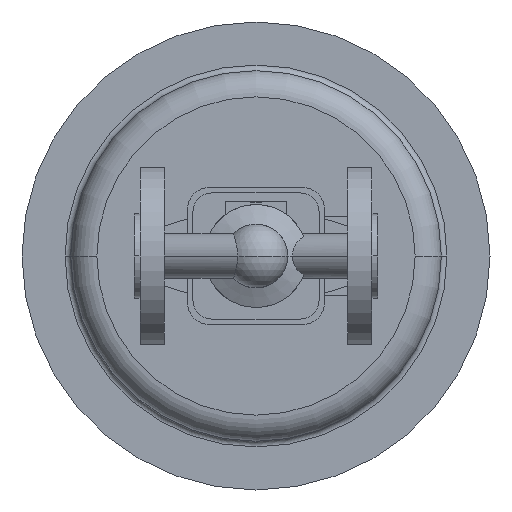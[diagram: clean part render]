
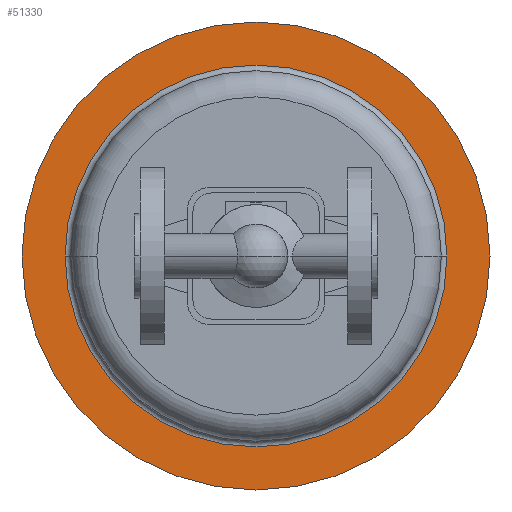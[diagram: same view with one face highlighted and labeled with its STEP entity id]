
A CAD part, front view. The second image highlights one B-rep face of the part: STEP entity #51330.
In plain terms, the highlighted planar face has unit normal (0, -1, 0).
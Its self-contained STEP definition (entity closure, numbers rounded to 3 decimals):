
#50830=CARTESIAN_POINT('',(-37.,560.,0.));
#50840=VERTEX_POINT('',#50830);
#50870=CARTESIAN_POINT('',(65.,560.,0.));
#50880=DIRECTION('',(0.,1.,0.));
#50890=DIRECTION('',(1.,0.,0.));
#50900=AXIS2_PLACEMENT_3D('',#50870,#50880,#50890);
#50910=CIRCLE('',#50900,102.);
#50920=CARTESIAN_POINT('',(167.,560.,0.));
#50930=VERTEX_POINT('',#50920);
#50940=EDGE_CURVE('',#50840,#50930,#50910,.T.);
#51080=CARTESIAN_POINT('',(178.5,560.,0.));
#51090=DIRECTION('',(0.,-1.,0.));
#51100=DIRECTION('',(-1.,0.,0.));
#51110=AXIS2_PLACEMENT_3D('',#51080,#51090,#51100);
#51120=PLANE('',#51110);
#51130=CARTESIAN_POINT('',(65.,560.,0.));
#51140=DIRECTION('',(0.,1.,0.));
#51150=DIRECTION('',(1.,0.,0.));
#51160=AXIS2_PLACEMENT_3D('',#51130,#51140,#51150);
#51170=CIRCLE('',#51160,125.);
#51180=CARTESIAN_POINT('',(-60.,560.,0.));
#51190=VERTEX_POINT('',#51180);
#51200=CARTESIAN_POINT('',(190.,560.,0.));
#51210=VERTEX_POINT('',#51200);
#51220=EDGE_CURVE('',#51190,#51210,#51170,.T.);
#51230=ORIENTED_EDGE('',*,*,#51220,.F.);
#51240=EDGE_CURVE('',#51210,#51190,#51170,.T.);
#51250=ORIENTED_EDGE('',*,*,#51240,.F.);
#51260=EDGE_LOOP('',(#51250,#51230));
#51270=FACE_OUTER_BOUND('',#51260,.T.);
#51280=EDGE_CURVE('',#50930,#50840,#50910,.T.);
#51290=ORIENTED_EDGE('',*,*,#51280,.T.);
#51300=ORIENTED_EDGE('',*,*,#50940,.T.);
#51310=EDGE_LOOP('',(#51300,#51290));
#51320=FACE_BOUND('',#51310,.T.);
#51330=ADVANCED_FACE('',(#51270,#51320),#51120,.T.);
